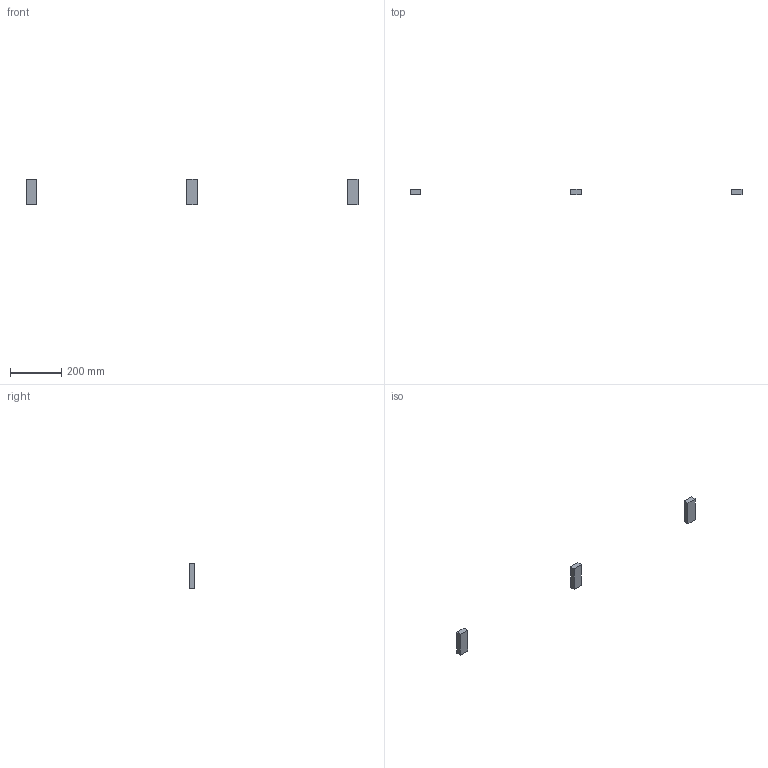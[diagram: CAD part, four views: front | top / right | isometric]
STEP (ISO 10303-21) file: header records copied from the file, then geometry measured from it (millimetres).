
FILE_DESCRIPTION(/* description */ (''),/* implementation_level */ '2;1');
FILE_NAME(/* name */ '3.frame-top#3.1#HFS5-2040-100',/* time_stamp */ '2014-12-01T20:11:46+01:00',/* author */ (''),/* organization */ (''),/* preprocessor_version */ 'ST-DEVELOPER v14',/* originating_system */ '',/* authorisation */ '');
FILE_SCHEMA (('AUTOMOTIVE_DESIGN'));
Length unit declared in the file: millimetre
Products named in the file (1): Document
Bounding box: 1300 x 20 x 100 mm (x, y, z)
Volume: 240000 mm3; surface area: 40800 mm2
Topology: 3 solids, 3 shells, 18 faces, 36 edges, 24 vertices
Faces by surface type: plane 18
Entity records: 844 total; most frequent: CARTESIAN_POINT 260, B_SPLINE_CURVE_WITH_KNOTS 108, ORIENTED_EDGE 72, PCURVE 72, DEFINITIONAL_REPRESENTATION 72, SURFACE_CURVE 36, EDGE_CURVE 36, VERTEX_POINT 24
